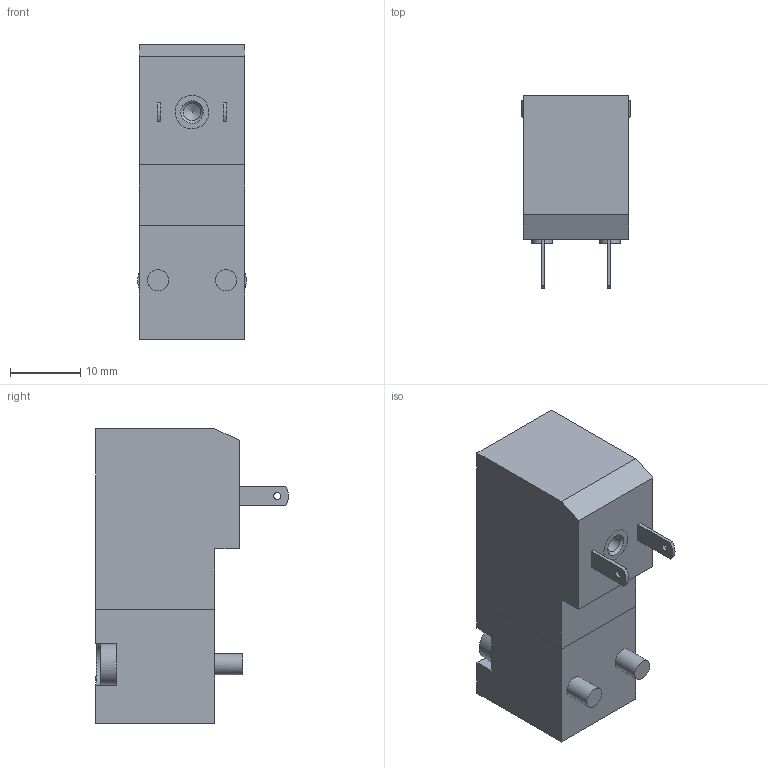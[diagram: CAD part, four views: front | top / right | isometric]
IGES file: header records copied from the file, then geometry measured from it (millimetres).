
Global section: file name: N3##_R0#-8; native system: Autodesk Inventor 2014; preprocessor: unknown; author: A. Manieri; organization: Pneumax S.p.A.; date: 20160908.134900; units: millimetre
Bounding box: 15.5 x 27.5 x 42 mm (x, y, z)
Volume: 11536.3 mm3; surface area: 3774.2 mm2
Topology: 1 solids, 1 shells, 88 faces, 225 edges, 148 vertices
Faces by surface type: bspline 88
